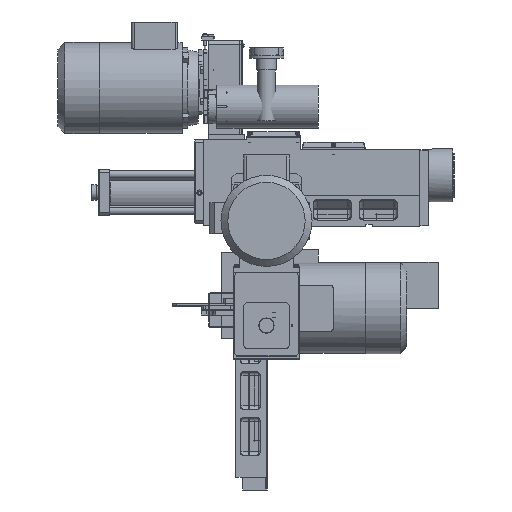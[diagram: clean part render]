
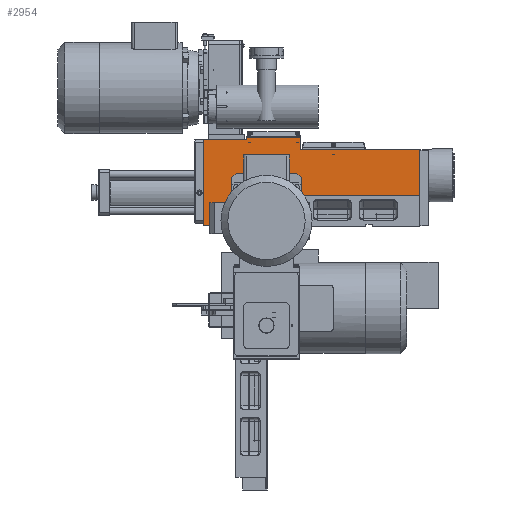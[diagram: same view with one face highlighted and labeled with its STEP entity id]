
A CAD part, front view. The second image highlights one B-rep face of the part: STEP entity #2954.
In plain terms, the highlighted planar face has unit normal (0, -1, 0).
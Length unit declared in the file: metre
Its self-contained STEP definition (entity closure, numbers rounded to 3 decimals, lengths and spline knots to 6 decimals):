
#2954 = ADVANCED_FACE( '', ( #5050 ), #5051, .T. );
#5050 = FACE_OUTER_BOUND( '', #9522, .T. );
#5051 = PLANE( '', #9523 );
#9522 = EDGE_LOOP( '', ( #15623, #15624, #15625, #15626, #15627, #15628, #15629, #15630, #15631, #15632 ) );
#9523 = AXIS2_PLACEMENT_3D( '', #15633, #15634, #15635 );
#15623 = ORIENTED_EDGE( '', *, *, #19318, .T. );
#15624 = ORIENTED_EDGE( '', *, *, #19319, .T. );
#15625 = ORIENTED_EDGE( '', *, *, #19320, .F. );
#15626 = ORIENTED_EDGE( '', *, *, #19289, .T. );
#15627 = ORIENTED_EDGE( '', *, *, #19296, .T. );
#15628 = ORIENTED_EDGE( '', *, *, #19303, .T. );
#15629 = ORIENTED_EDGE( '', *, *, #19313, .T. );
#15630 = ORIENTED_EDGE( '', *, *, #19315, .T. );
#15631 = ORIENTED_EDGE( '', *, *, #19317, .T. );
#15632 = ORIENTED_EDGE( '', *, *, #19321, .T. );
#15633 = CARTESIAN_POINT( '', ( 0.337, -0.003889, 0. ) );
#15634 = DIRECTION( '', ( 0., -1., 0. ) );
#15635 = DIRECTION( '', ( 1., 0., 0. ) );
#19289 = EDGE_CURVE( '', #22469, #22467, #22470, .T. );
#19296 = EDGE_CURVE( '', #22467, #22479, #22481, .T. );
#19303 = EDGE_CURVE( '', #22479, #22490, #22492, .T. );
#19313 = EDGE_CURVE( '', #22490, #22507, #22509, .T. );
#19315 = EDGE_CURVE( '', #22507, #22510, #22512, .T. );
#19317 = EDGE_CURVE( '', #22510, #22513, #22515, .T. );
#19318 = EDGE_CURVE( '', #22516, #22517, #22518, .T. );
#19319 = EDGE_CURVE( '', #22517, #22519, #22520, .T. );
#19320 = EDGE_CURVE( '', #22469, #22519, #22521, .T. );
#19321 = EDGE_CURVE( '', #22513, #22516, #22522, .T. );
#22467 = VERTEX_POINT( '', #28757 );
#22469 = VERTEX_POINT( '', #28760 );
#22470 = LINE( '', #28761, #28762 );
#22479 = VERTEX_POINT( '', #28776 );
#22481 = LINE( '', #28779, #28780 );
#22490 = VERTEX_POINT( '', #28794 );
#22492 = LINE( '', #28797, #28798 );
#22507 = VERTEX_POINT( '', #28821 );
#22509 = LINE( '', #28824, #28825 );
#22510 = VERTEX_POINT( '', #28826 );
#22512 = LINE( '', #28829, #28830 );
#22513 = VERTEX_POINT( '', #28831 );
#22515 = LINE( '', #28834, #28835 );
#22516 = VERTEX_POINT( '', #28836 );
#22517 = VERTEX_POINT( '', #28837 );
#22518 = LINE( '', #28838, #28839 );
#22519 = VERTEX_POINT( '', #28840 );
#22520 = LINE( '', #28841, #28842 );
#22521 = LINE( '', #28843, #28844 );
#22522 = LINE( '', #28845, #28846 );
#28757 = CARTESIAN_POINT( '', ( -0.005, -0.003889, 0. ) );
#28760 = CARTESIAN_POINT( '', ( -0.005, -0.003889, -0.059 ) );
#28761 = CARTESIAN_POINT( '', ( -0.005, -0.003889, -0.059 ) );
#28762 = VECTOR( '', #32598, 1. );
#28776 = CARTESIAN_POINT( '', ( 0.337, -0.003889, 0. ) );
#28779 = CARTESIAN_POINT( '', ( -0.005, -0.003889, 0. ) );
#28780 = VECTOR( '', #32605, 1. );
#28794 = CARTESIAN_POINT( '', ( 0.337, -0.003889, 0.09 ) );
#28797 = CARTESIAN_POINT( '', ( 0.337, -0.003889, 0. ) );
#28798 = VECTOR( '', #32612, 1. );
#28821 = CARTESIAN_POINT( '', ( 0.102, -0.003889, 0.09 ) );
#28824 = CARTESIAN_POINT( '', ( -0.005, -0.003889, 0.09 ) );
#28825 = VECTOR( '', #32622, 1. );
#28826 = CARTESIAN_POINT( '', ( 0.102, -0.003889, 0.115 ) );
#28829 = CARTESIAN_POINT( '', ( 0.102, -0.003889, 0.09 ) );
#28830 = VECTOR( '', #32624, 1. );
#28831 = CARTESIAN_POINT( '', ( -0.003, -0.003889, 0.115 ) );
#28834 = CARTESIAN_POINT( '', ( -0.005, -0.003889, 0.115 ) );
#28835 = VECTOR( '', #32626, 1. );
#28836 = CARTESIAN_POINT( '', ( -0.003, -0.003889, 0.11 ) );
#28837 = CARTESIAN_POINT( '', ( -0.088, -0.003889, 0.11 ) );
#28838 = CARTESIAN_POINT( '', ( 0.14575, -0.003889, 0.11 ) );
#28839 = VECTOR( '', #32627, 1. );
#28840 = CARTESIAN_POINT( '', ( -0.088, -0.003889, -0.059 ) );
#28841 = CARTESIAN_POINT( '', ( -0.088, -0.003889, -0.059 ) );
#28842 = VECTOR( '', #32628, 1. );
#28843 = CARTESIAN_POINT( '', ( -0.005, -0.003889, -0.059 ) );
#28844 = VECTOR( '', #32629, 1. );
#28845 = CARTESIAN_POINT( '', ( -0.003, -0.003889, 0.058735 ) );
#28846 = VECTOR( '', #32630, 1. );
#32598 = DIRECTION( '', ( 0., 0., 1. ) );
#32605 = DIRECTION( '', ( 1., 0., 0. ) );
#32612 = DIRECTION( '', ( 0., 0., 1. ) );
#32622 = DIRECTION( '', ( -1., 0., 0. ) );
#32624 = DIRECTION( '', ( 0., 0., 1. ) );
#32626 = DIRECTION( '', ( -1., 0., 0. ) );
#32627 = DIRECTION( '', ( -1., 0., 0. ) );
#32628 = DIRECTION( '', ( 0., 0., -1. ) );
#32629 = DIRECTION( '', ( -1., 0., 0. ) );
#32630 = DIRECTION( '', ( 0., 0., -1. ) );
